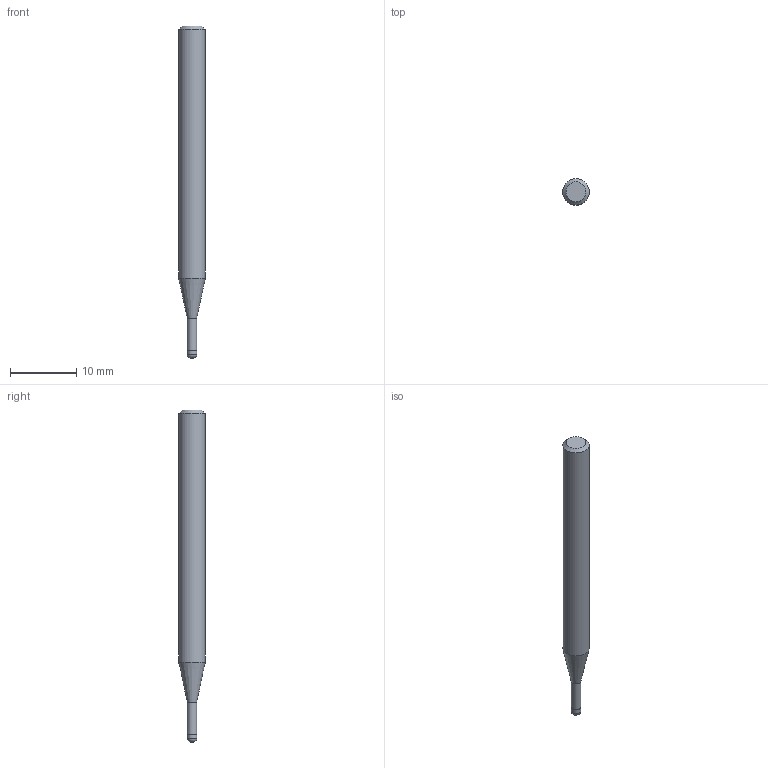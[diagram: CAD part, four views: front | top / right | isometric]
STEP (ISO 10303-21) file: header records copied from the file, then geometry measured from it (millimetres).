
FILE_DESCRIPTION((''),'2;1');
FILE_NAME('C:\Users\nsx150\AppData\Local\Temp\Mastercam 2021\3SYKECWX22\TEMP.step','2021-04-22T09:48:38',(''),(''),'STEP Write','Mastercam 2021 ... CNC Software, Inc.','');
FILE_SCHEMA(('AUTOMOTIVE_DESIGN'));
Length unit declared in the file: millimetre
Products named in the file (1): None
Bounding box: 4 x 4 x 50 mm (x, y, z)
Volume: 522.7 mm3; surface area: 569.5 mm2
Topology: 2 solids, 2 shells, 10 faces, 14 edges, 8 vertices
Faces by surface type: plane 4, cylinder 3, cone 2, torus 1
Full cylindrical faces by diameter (mm): 1.43 x1, 1.5 x1, 4 x1
Entity records: 232 total; most frequent: DIRECTION 40, CARTESIAN_POINT 28, AXIS2_PLACEMENT_3D 20, ORIENTED_EDGE 16, EDGE_LOOP 16, STYLED_ITEM 13, ADVANCED_FACE 10, FACE_BOUND 10
